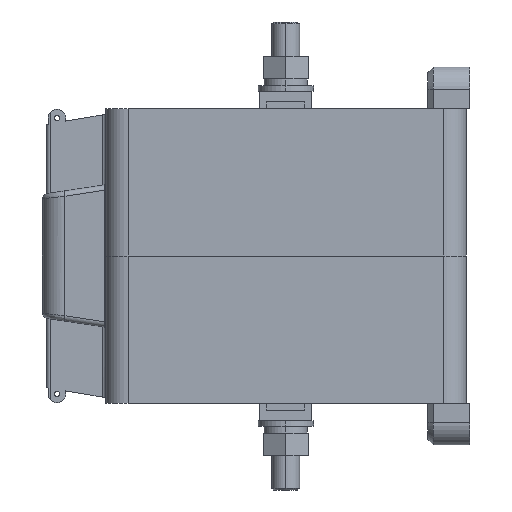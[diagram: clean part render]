
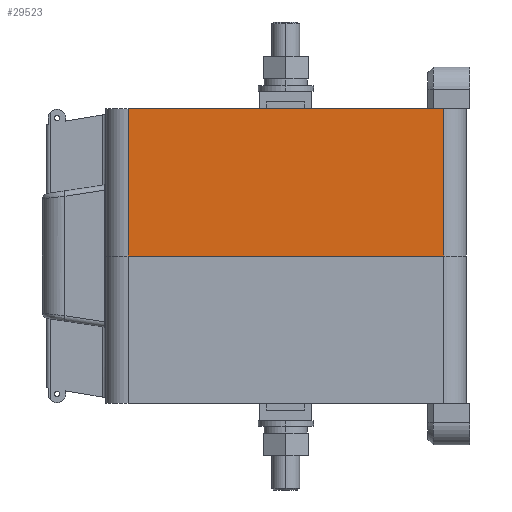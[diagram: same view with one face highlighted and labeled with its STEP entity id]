
A CAD part, left-side view. The second image highlights one B-rep face of the part: STEP entity #29523.
In plain terms, the highlighted planar face has unit normal (-1, 0, 0) as drawn and (1, 0, 0) by its records, which use the part's own axes.
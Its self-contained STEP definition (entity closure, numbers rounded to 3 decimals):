
#463 = VECTOR ( 'NONE', #44109, 1000. ) ;
#4879 = ORIENTED_EDGE ( 'NONE', *, *, #6897, .T. ) ;
#6446 = PLANE ( 'NONE',  #7872 ) ;
#6897 = EDGE_CURVE ( 'NONE', #11041, #36069, #38707, .T. ) ;
#7872 = AXIS2_PLACEMENT_3D ( 'NONE', #50017, #22641, #10612 ) ;
#9058 = ORIENTED_EDGE ( 'NONE', *, *, #24209, .T. ) ;
#10612 = DIRECTION ( 'NONE',  ( 0., -1., 0. ) ) ;
#11041 = VERTEX_POINT ( 'NONE', #35329 ) ;
#11482 = DIRECTION ( 'NONE',  ( 0., 1., 0. ) ) ;
#12077 = LINE ( 'NONE', #28069, #463 ) ;
#14119 = EDGE_LOOP ( 'NONE', ( #38435, #4879, #29547, #9058 ) ) ;
#14566 = DIRECTION ( 'NONE',  ( 0., 0., -1. ) ) ;
#15758 = DIRECTION ( 'NONE',  ( 0., 1., 0. ) ) ;
#16825 = VECTOR ( 'NONE', #11482, 1000. ) ;
#17591 = EDGE_CURVE ( 'NONE', #11041, #29006, #35976, .T. ) ;
#21715 = CARTESIAN_POINT ( 'NONE',  ( 42.5, 6.5, 0. ) ) ;
#22641 = DIRECTION ( 'NONE',  ( -1., 0., 0. ) ) ;
#22735 = LINE ( 'NONE', #27729, #16825 ) ;
#24209 = EDGE_CURVE ( 'NONE', #30015, #29006, #12077, .T. ) ;
#25196 = VECTOR ( 'NONE', #14566, 1000. ) ;
#27729 = CARTESIAN_POINT ( 'NONE',  ( 42.5, 104., 0. ) ) ;
#28069 = CARTESIAN_POINT ( 'NONE',  ( 42.5, 97.5, 42.5 ) ) ;
#29006 = VERTEX_POINT ( 'NONE', #43551 ) ;
#29523 = ADVANCED_FACE ( 'NONE', ( #42373 ), #6446, .F. ) ;
#29547 = ORIENTED_EDGE ( 'NONE', *, *, #36169, .T. ) ;
#30015 = VERTEX_POINT ( 'NONE', #34103 ) ;
#34103 = CARTESIAN_POINT ( 'NONE',  ( 42.5, 97.5, 0. ) ) ;
#35329 = CARTESIAN_POINT ( 'NONE',  ( 42.5, 6.5, 42.5 ) ) ;
#35976 = LINE ( 'NONE', #51498, #36962 ) ;
#36069 = VERTEX_POINT ( 'NONE', #21715 ) ;
#36169 = EDGE_CURVE ( 'NONE', #36069, #30015, #22735, .T. ) ;
#36962 = VECTOR ( 'NONE', #15758, 1000. ) ;
#38435 = ORIENTED_EDGE ( 'NONE', *, *, #17591, .F. ) ;
#38707 = LINE ( 'NONE', #42386, #25196 ) ;
#42373 = FACE_OUTER_BOUND ( 'NONE', #14119, .T. ) ;
#42386 = CARTESIAN_POINT ( 'NONE',  ( 42.5, 6.5, 42.5 ) ) ;
#43551 = CARTESIAN_POINT ( 'NONE',  ( 42.5, 97.5, 42.5 ) ) ;
#44109 = DIRECTION ( 'NONE',  ( 0., 0., 1. ) ) ;
#50017 = CARTESIAN_POINT ( 'NONE',  ( 42.5, 104., 42.5 ) ) ;
#51498 = CARTESIAN_POINT ( 'NONE',  ( 42.5, 104., 42.5 ) ) ;
